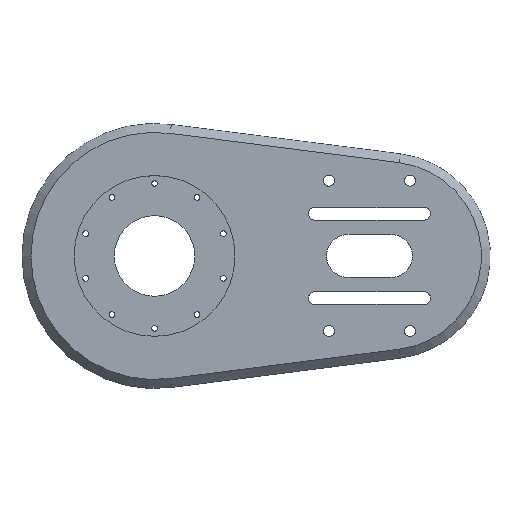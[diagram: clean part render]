
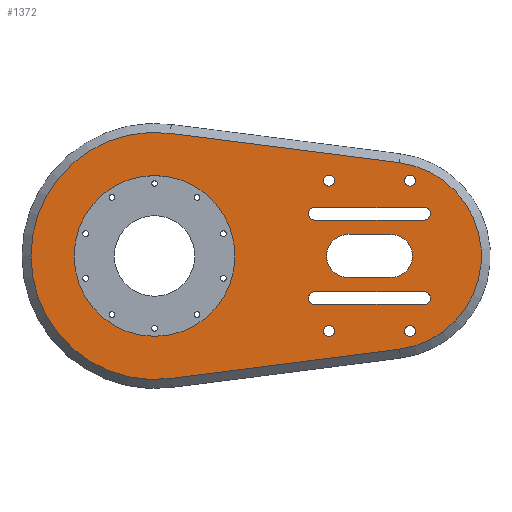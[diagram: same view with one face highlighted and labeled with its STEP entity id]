
A CAD part, top view. The second image highlights one B-rep face of the part: STEP entity #1372.
In plain terms, the highlighted planar face has unit normal (0, 0, 1).
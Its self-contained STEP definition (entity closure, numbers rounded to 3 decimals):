
#35=FACE_BOUND('',#412,.T.);
#36=FACE_BOUND('',#413,.T.);
#37=FACE_BOUND('',#414,.T.);
#38=FACE_BOUND('',#415,.T.);
#39=FACE_BOUND('',#416,.T.);
#40=FACE_BOUND('',#417,.T.);
#41=FACE_BOUND('',#418,.T.);
#42=FACE_BOUND('',#419,.T.);
#61=PLANE('',#1518);
#109=LINE('',#2328,#201);
#111=LINE('',#2337,#203);
#118=LINE('',#2359,#210);
#119=LINE('',#2362,#211);
#120=LINE('',#2367,#212);
#121=LINE('',#2370,#213);
#122=LINE('',#2377,#214);
#123=LINE('',#2380,#215);
#201=VECTOR('',#1787,10.);
#203=VECTOR('',#1797,10.);
#210=VECTOR('',#1820,10.);
#211=VECTOR('',#1823,10.);
#212=VECTOR('',#1826,10.);
#213=VECTOR('',#1829,10.);
#214=VECTOR('',#1834,10.);
#215=VECTOR('',#1837,10.);
#323=FACE_OUTER_BOUND('',#411,.T.);
#411=EDGE_LOOP('',(#1080,#1081,#1082,#1083));
#412=EDGE_LOOP('',(#1084,#1085,#1086,#1087));
#413=EDGE_LOOP('',(#1088,#1089,#1090,#1091));
#414=EDGE_LOOP('',(#1092));
#415=EDGE_LOOP('',(#1093,#1094,#1095,#1096));
#416=EDGE_LOOP('',(#1097));
#417=EDGE_LOOP('',(#1098));
#418=EDGE_LOOP('',(#1099));
#419=EDGE_LOOP('',(#1100));
#536=CIRCLE('',#1509,52.5);
#538=CIRCLE('',#1513,69.);
#541=CIRCLE('',#1519,3.5);
#542=CIRCLE('',#1520,3.5);
#543=CIRCLE('',#1521,3.5);
#544=CIRCLE('',#1522,3.5);
#545=CIRCLE('',#1523,3.1);
#546=CIRCLE('',#1524,12.);
#547=CIRCLE('',#1525,12.);
#548=CIRCLE('',#1526,3.1);
#549=CIRCLE('',#1527,3.1);
#550=CIRCLE('',#1528,3.1);
#551=CIRCLE('',#1529,44.9);
#673=VERTEX_POINT('',#2321);
#676=VERTEX_POINT('',#2326);
#677=VERTEX_POINT('',#2330);
#679=VERTEX_POINT('',#2336);
#684=VERTEX_POINT('',#2355);
#685=VERTEX_POINT('',#2356);
#686=VERTEX_POINT('',#2358);
#687=VERTEX_POINT('',#2360);
#688=VERTEX_POINT('',#2363);
#689=VERTEX_POINT('',#2364);
#690=VERTEX_POINT('',#2366);
#691=VERTEX_POINT('',#2368);
#692=VERTEX_POINT('',#2371);
#693=VERTEX_POINT('',#2373);
#694=VERTEX_POINT('',#2374);
#695=VERTEX_POINT('',#2376);
#696=VERTEX_POINT('',#2378);
#697=VERTEX_POINT('',#2381);
#698=VERTEX_POINT('',#2383);
#699=VERTEX_POINT('',#2385);
#700=VERTEX_POINT('',#2387);
#826=EDGE_CURVE('',#676,#673,#109,.T.);
#827=EDGE_CURVE('',#673,#677,#536,.T.);
#830=EDGE_CURVE('',#677,#679,#111,.T.);
#833=EDGE_CURVE('',#679,#676,#538,.T.);
#840=EDGE_CURVE('',#684,#685,#541,.T.);
#841=EDGE_CURVE('',#685,#686,#118,.T.);
#842=EDGE_CURVE('',#686,#687,#542,.T.);
#843=EDGE_CURVE('',#687,#684,#119,.T.);
#844=EDGE_CURVE('',#688,#689,#543,.T.);
#845=EDGE_CURVE('',#689,#690,#120,.T.);
#846=EDGE_CURVE('',#690,#691,#544,.T.);
#847=EDGE_CURVE('',#691,#688,#121,.T.);
#848=EDGE_CURVE('',#692,#692,#545,.T.);
#849=EDGE_CURVE('',#693,#694,#546,.T.);
#850=EDGE_CURVE('',#694,#695,#122,.T.);
#851=EDGE_CURVE('',#695,#696,#547,.T.);
#852=EDGE_CURVE('',#696,#693,#123,.T.);
#853=EDGE_CURVE('',#697,#697,#548,.T.);
#854=EDGE_CURVE('',#698,#698,#549,.T.);
#855=EDGE_CURVE('',#699,#699,#550,.T.);
#856=EDGE_CURVE('',#700,#700,#551,.T.);
#1080=ORIENTED_EDGE('',*,*,#826,.F.);
#1081=ORIENTED_EDGE('',*,*,#833,.F.);
#1082=ORIENTED_EDGE('',*,*,#830,.F.);
#1083=ORIENTED_EDGE('',*,*,#827,.F.);
#1084=ORIENTED_EDGE('',*,*,#840,.T.);
#1085=ORIENTED_EDGE('',*,*,#841,.T.);
#1086=ORIENTED_EDGE('',*,*,#842,.T.);
#1087=ORIENTED_EDGE('',*,*,#843,.T.);
#1088=ORIENTED_EDGE('',*,*,#844,.T.);
#1089=ORIENTED_EDGE('',*,*,#845,.T.);
#1090=ORIENTED_EDGE('',*,*,#846,.T.);
#1091=ORIENTED_EDGE('',*,*,#847,.T.);
#1092=ORIENTED_EDGE('',*,*,#848,.T.);
#1093=ORIENTED_EDGE('',*,*,#849,.T.);
#1094=ORIENTED_EDGE('',*,*,#850,.T.);
#1095=ORIENTED_EDGE('',*,*,#851,.T.);
#1096=ORIENTED_EDGE('',*,*,#852,.T.);
#1097=ORIENTED_EDGE('',*,*,#853,.T.);
#1098=ORIENTED_EDGE('',*,*,#854,.T.);
#1099=ORIENTED_EDGE('',*,*,#855,.T.);
#1100=ORIENTED_EDGE('',*,*,#856,.T.);
#1372=ADVANCED_FACE('',(#323,#35,#36,#37,#38,#39,#40,#41,#42),#61,.T.);
#1509=AXIS2_PLACEMENT_3D('',#2331,#1790,#1791);
#1513=AXIS2_PLACEMENT_3D('',#2342,#1802,#1803);
#1518=AXIS2_PLACEMENT_3D('',#2354,#1816,#1817);
#1519=AXIS2_PLACEMENT_3D('',#2357,#1818,#1819);
#1520=AXIS2_PLACEMENT_3D('',#2361,#1821,#1822);
#1521=AXIS2_PLACEMENT_3D('',#2365,#1824,#1825);
#1522=AXIS2_PLACEMENT_3D('',#2369,#1827,#1828);
#1523=AXIS2_PLACEMENT_3D('',#2372,#1830,#1831);
#1524=AXIS2_PLACEMENT_3D('',#2375,#1832,#1833);
#1525=AXIS2_PLACEMENT_3D('',#2379,#1835,#1836);
#1526=AXIS2_PLACEMENT_3D('',#2382,#1838,#1839);
#1527=AXIS2_PLACEMENT_3D('',#2384,#1840,#1841);
#1528=AXIS2_PLACEMENT_3D('',#2386,#1842,#1843);
#1529=AXIS2_PLACEMENT_3D('',#2388,#1844,#1845);
#1787=DIRECTION('',(0.992,-0.127,0.));
#1790=DIRECTION('center_axis',(0.,0.,-1.));
#1791=DIRECTION('ref_axis',(0.127,-0.992,0.));
#1797=DIRECTION('',(-0.992,-0.127,0.));
#1802=DIRECTION('center_axis',(0.,0.,-1.));
#1803=DIRECTION('ref_axis',(-0.127,-0.992,0.));
#1816=DIRECTION('center_axis',(0.,0.,1.));
#1817=DIRECTION('ref_axis',(1.,0.,0.));
#1818=DIRECTION('center_axis',(0.,0.,-1.));
#1819=DIRECTION('ref_axis',(0.,-1.,0.));
#1820=DIRECTION('',(-1.,0.,0.));
#1821=DIRECTION('center_axis',(0.,0.,-1.));
#1822=DIRECTION('ref_axis',(0.,1.,0.));
#1823=DIRECTION('',(1.,0.,0.));
#1824=DIRECTION('center_axis',(0.,0.,-1.));
#1825=DIRECTION('ref_axis',(0.,1.,0.));
#1826=DIRECTION('',(1.,0.,0.));
#1827=DIRECTION('center_axis',(0.,0.,-1.));
#1828=DIRECTION('ref_axis',(0.,-1.,0.));
#1829=DIRECTION('',(-1.,0.,0.));
#1830=DIRECTION('center_axis',(0.,0.,-1.));
#1831=DIRECTION('ref_axis',(1.,0.,0.));
#1832=DIRECTION('center_axis',(0.,0.,-1.));
#1833=DIRECTION('ref_axis',(0.,1.,0.));
#1834=DIRECTION('',(1.,0.,0.));
#1835=DIRECTION('center_axis',(0.,0.,-1.));
#1836=DIRECTION('ref_axis',(0.,-1.,0.));
#1837=DIRECTION('',(-1.,0.,0.));
#1838=DIRECTION('center_axis',(0.,0.,-1.));
#1839=DIRECTION('ref_axis',(1.,0.,0.));
#1840=DIRECTION('center_axis',(0.,0.,-1.));
#1841=DIRECTION('ref_axis',(1.,0.,0.));
#1842=DIRECTION('center_axis',(0.,0.,-1.));
#1843=DIRECTION('ref_axis',(1.,0.,0.));
#1844=DIRECTION('center_axis',(0.,0.,-1.));
#1845=DIRECTION('ref_axis',(1.,0.,0.));
#2321=CARTESIAN_POINT('',(136.663,52.075,0.));
#2326=CARTESIAN_POINT('',(8.758,68.442,0.));
#2328=CARTESIAN_POINT('',(36.676,64.87,0.));
#2330=CARTESIAN_POINT('',(136.663,-52.075,0.));
#2331=CARTESIAN_POINT('Origin',(130.,0.,0.));
#2336=CARTESIAN_POINT('',(8.758,-68.442,0.));
#2337=CARTESIAN_POINT('',(100.628,-56.686,0.));
#2342=CARTESIAN_POINT('Origin',(0.,0.,0.));
#2354=CARTESIAN_POINT('Origin',(56.75,0.,0.));
#2355=CARTESIAN_POINT('',(150.55,-20.05,0.));
#2356=CARTESIAN_POINT('',(150.55,-27.05,0.));
#2357=CARTESIAN_POINT('Origin',(150.55,-23.55,0.));
#2358=CARTESIAN_POINT('',(89.45,-27.05,0.));
#2359=CARTESIAN_POINT('',(150.55,-27.05,0.));
#2360=CARTESIAN_POINT('',(89.45,-20.05,0.));
#2361=CARTESIAN_POINT('Origin',(89.45,-23.55,0.));
#2362=CARTESIAN_POINT('',(89.45,-20.05,0.));
#2363=CARTESIAN_POINT('',(89.45,20.05,0.));
#2364=CARTESIAN_POINT('',(89.45,27.05,0.));
#2365=CARTESIAN_POINT('Origin',(89.45,23.55,0.));
#2366=CARTESIAN_POINT('',(150.55,27.05,0.));
#2367=CARTESIAN_POINT('',(150.55,27.05,0.));
#2368=CARTESIAN_POINT('',(150.55,20.05,0.));
#2369=CARTESIAN_POINT('Origin',(150.55,23.55,0.));
#2370=CARTESIAN_POINT('',(89.45,20.05,0.));
#2371=CARTESIAN_POINT('',(94.263,-42.,0.));
#2372=CARTESIAN_POINT('Origin',(97.363,-42.,0.));
#2373=CARTESIAN_POINT('',(108.,-12.,0.));
#2374=CARTESIAN_POINT('',(108.,12.,0.));
#2375=CARTESIAN_POINT('Origin',(108.,0.,0.));
#2376=CARTESIAN_POINT('',(132.,12.,0.));
#2377=CARTESIAN_POINT('',(132.,12.,0.));
#2378=CARTESIAN_POINT('',(132.,-12.,0.));
#2379=CARTESIAN_POINT('Origin',(132.,0.,0.));
#2380=CARTESIAN_POINT('',(108.,-12.,0.));
#2381=CARTESIAN_POINT('',(139.538,-42.,0.));
#2382=CARTESIAN_POINT('Origin',(142.638,-42.,0.));
#2383=CARTESIAN_POINT('',(94.263,42.,0.));
#2384=CARTESIAN_POINT('Origin',(97.363,42.,0.));
#2385=CARTESIAN_POINT('',(139.538,42.,0.));
#2386=CARTESIAN_POINT('Origin',(142.638,42.,0.));
#2387=CARTESIAN_POINT('',(-44.9,0.,0.));
#2388=CARTESIAN_POINT('Origin',(0.,0.,0.));
